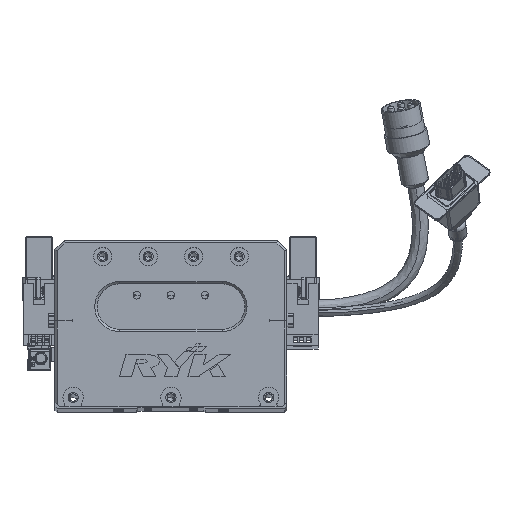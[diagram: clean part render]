
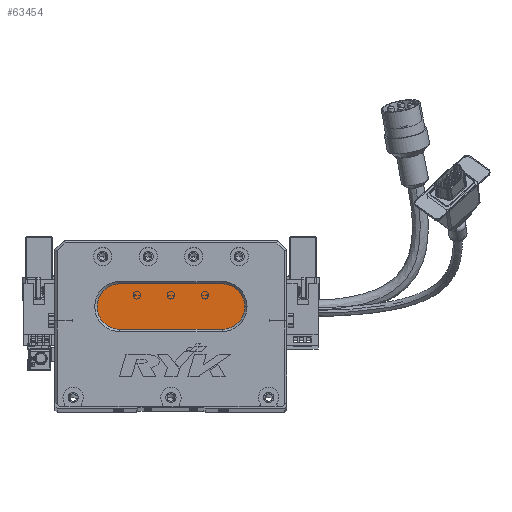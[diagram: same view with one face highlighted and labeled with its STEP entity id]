
A CAD part, top view. The second image highlights one B-rep face of the part: STEP entity #63454.
In plain terms, the highlighted planar face has unit normal (0, 0, 1) as drawn and (0, 0, -1) by its records, which use the part's own axes.
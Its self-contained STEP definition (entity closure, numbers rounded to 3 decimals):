
#294 = EDGE_CURVE ( 'NONE', #66681, #33303, #47228, .T. ) ;
#1954 = DIRECTION ( 'NONE',  ( 0., 0., -1. ) ) ;
#2212 = EDGE_CURVE ( 'NONE', #33303, #48936, #21515, .T. ) ;
#3088 = VERTEX_POINT ( 'NONE', #52967 ) ;
#4574 = CIRCLE ( 'NONE', #42043, 10. ) ;
#5783 = CARTESIAN_POINT ( 'NONE',  ( 28.5, 54., 13. ) ) ;
#8323 = CARTESIAN_POINT ( 'NONE',  ( 28.5, 44., 13. ) ) ;
#8352 = VERTEX_POINT ( 'NONE', #5783 ) ;
#8974 = FACE_OUTER_BOUND ( 'NONE', #41627, .T. ) ;
#9090 = EDGE_CURVE ( 'NONE', #8352, #3088, #52052, .T. ) ;
#11909 = VECTOR ( 'NONE', #64101, 1000. ) ;
#12243 = CARTESIAN_POINT ( 'NONE',  ( 28.5, 34., 13. ) ) ;
#12379 = CARTESIAN_POINT ( 'NONE',  ( 73.5, 34., 13. ) ) ;
#15127 = ORIENTED_EDGE ( 'NONE', *, *, #9090, .T. ) ;
#21515 = CIRCLE ( 'NONE', #41305, 10. ) ;
#22948 = ORIENTED_EDGE ( 'NONE', *, *, #43618, .T. ) ;
#24374 = DIRECTION ( 'NONE',  ( 1., 0., 0. ) ) ;
#27089 = DIRECTION ( 'NONE',  ( 0., 0., -1. ) ) ;
#33303 = VERTEX_POINT ( 'NONE', #12243 ) ;
#33460 = CARTESIAN_POINT ( 'NONE',  ( 18.5, 44., 13. ) ) ;
#33469 = CARTESIAN_POINT ( 'NONE',  ( 73.5, 44., 13. ) ) ;
#35379 = PLANE ( 'NONE',  #44800 ) ;
#38685 = DIRECTION ( 'NONE',  ( -1., 0., 0. ) ) ;
#38796 = VECTOR ( 'NONE', #24374, 1000. ) ;
#40159 = DIRECTION ( 'NONE',  ( 0., 0., -1. ) ) ;
#41305 = AXIS2_PLACEMENT_3D ( 'NONE', #8323, #45257, #50336 ) ;
#41627 = EDGE_LOOP ( 'NONE', ( #50979, #56359, #53883, #22948, #15127 ) ) ;
#42043 = AXIS2_PLACEMENT_3D ( 'NONE', #63116, #27089, #63556 ) ;
#43618 = EDGE_CURVE ( 'NONE', #48936, #8352, #4574, .T. ) ;
#44800 = AXIS2_PLACEMENT_3D ( 'NONE', #45491, #40159, #56964 ) ;
#45257 = DIRECTION ( 'NONE',  ( 0., 0., -1. ) ) ;
#45491 = CARTESIAN_POINT ( 'NONE',  ( 73.5, 44., 13. ) ) ;
#47228 = LINE ( 'NONE', #53569, #11909 ) ;
#48936 = VERTEX_POINT ( 'NONE', #33460 ) ;
#50336 = DIRECTION ( 'NONE',  ( -1., 0., 0. ) ) ;
#50979 = ORIENTED_EDGE ( 'NONE', *, *, #51861, .T. ) ;
#51861 = EDGE_CURVE ( 'NONE', #3088, #66681, #55026, .T. ) ;
#52052 = LINE ( 'NONE', #56508, #38796 ) ;
#52967 = CARTESIAN_POINT ( 'NONE',  ( 73.5, 54., 13. ) ) ;
#53569 = CARTESIAN_POINT ( 'NONE',  ( 73.5, 34., 13. ) ) ;
#53883 = ORIENTED_EDGE ( 'NONE', *, *, #2212, .T. ) ;
#55026 = CIRCLE ( 'NONE', #66670, 10. ) ;
#56359 = ORIENTED_EDGE ( 'NONE', *, *, #294, .T. ) ;
#56508 = CARTESIAN_POINT ( 'NONE',  ( 73.5, 54., 13. ) ) ;
#56964 = DIRECTION ( 'NONE',  ( -1., 0., 0. ) ) ;
#63116 = CARTESIAN_POINT ( 'NONE',  ( 28.5, 44., 13. ) ) ;
#63454 = ADVANCED_FACE ( 'NONE', ( #8974 ), #35379, .T. ) ;
#63556 = DIRECTION ( 'NONE',  ( -1., 0., 0. ) ) ;
#64101 = DIRECTION ( 'NONE',  ( -1., 0., 0. ) ) ;
#66670 = AXIS2_PLACEMENT_3D ( 'NONE', #33469, #1954, #38685 ) ;
#66681 = VERTEX_POINT ( 'NONE', #12379 ) ;
